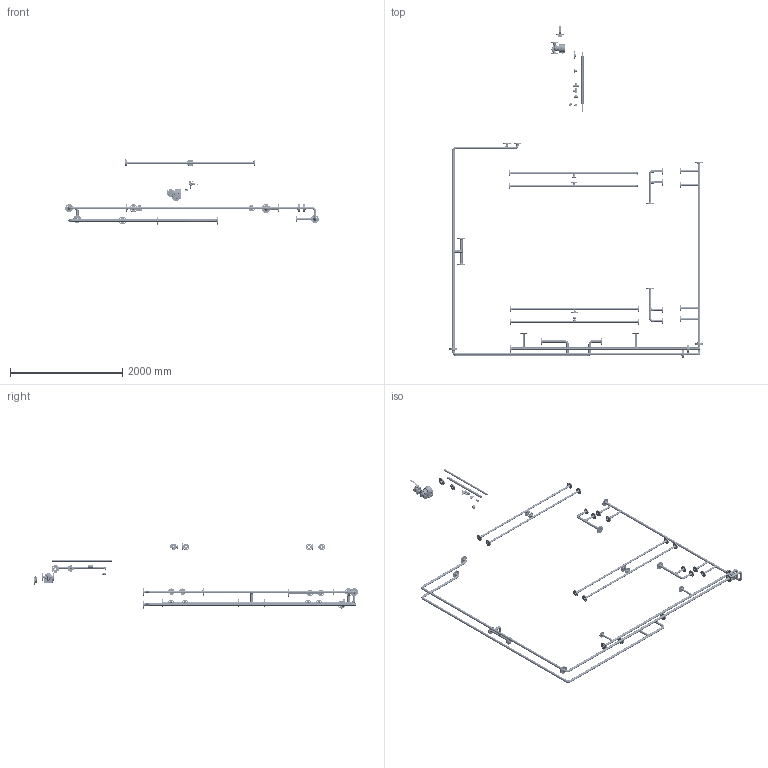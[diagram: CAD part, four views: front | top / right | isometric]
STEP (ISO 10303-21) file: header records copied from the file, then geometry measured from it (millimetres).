
FILE_DESCRIPTION (( 'STEP AP214' ), '1' );
FILE_NAME ('kirinaios_piping.STEP', '2026-09-02T16:36:31', ( '' ), ( '' ), 'SwSTEP 2.0', 'SolidWorks 2026', '' );
FILE_SCHEMA (( 'AUTOMOTIVE_DESIGN' ));
Length unit declared in the file: millimetre
Products named in the file (59): pipe-424x372-11; pipe-424x372-23; kirineos-welded-reducer-424-337-26-DN32-DN25-EN10253; pipe-337x285-3; pipe-424x372-12; magna3n_32_80_stainless steel_220_pn 6_10_single head; pipe-424x372-17; pipe-337x285; kirineos-weld-neck-flange-337-26-DN32; kirineos_ball_valve_thin_dn32; pipe-424x372-27; pipe-424x372-8; kirineos-welded-tee-424-26-DN32-EN10253; pipe-424x372; pipe-337x285-2; pipe-424x372-16; m3_200w_control_box-2; pipe-424x372-19; pipe-424x372-21; pipe-337x285-8; pipe-424x372-1; m3_dn32_ss_220_pn6-10_ced_s-0; pipe-337x285-5; pipe-424x372-9; kirineos-welded-reduced-tee-424-337-26-DN25-DIN2605-EN10253-4; pipe-424x372-25; pipe-424x372-30; pipe-424x372-3; pipe-424x372-26; pipe-424x372-6; pipe-337x285-7; pipe-337x285-4; pipe-337x285-9; pipe-424x372-24; pipe-424x372-15; pipe-424x372-22; kirinaios_piping; pipe-424x372-10; pipe-337x285-11; pipe-337x285-6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
Assembly tree (142 placements, depth 4):
  kirinaios_piping
    pipe-424x372  x2
    pipe-337x285  x9
    kirineos-weld-neck-flange-424-26-DN321  x19
    kirineos-weld-neck-flange-337-26-DN32  x23
    kirineos-welded-tee-424-26-DN32-EN10253  x7
    kirineos-welded-tee-337-26-DN25-EN10253  x5
    kirineos-welded-reducer-424-337-26-DN32-DN25-EN10253  x5
    kirineos-welded-elbow-90-424-26-DN32-EN10253  x16
    pipe-424x372-1
    pipe-424x372-2
    pipe-424x372-3
    pipe-424x372-4
    pipe-424x372-5
    pipe-424x372-6
    pipe-424x372-7
    pipe-424x372-8
    pipe-424x372-9
    pipe-424x372-10
    pipe-424x372-11
    pipe-424x372-12
    pipe-424x372-14
    pipe-424x372-15
    pipe-424x372-17
    pipe-424x372-18
    pipe-424x372-19
    pipe-424x372-16
    kirineos-welded-reduced-tee-424-337-26-DN25-DIN2605-EN10253-4  x7
    pipe-337x285-5
    pipe-337x285-4
    pipe-337x285-3
    pipe-337x285-2
    pipe-424x372-20
    pipe-424x372-24
    pipe-424x372-22
    pipe-424x372-21
    pipe-424x372-23
    pipe-337x285-6
    pipe-337x285-7
    pipe-424x372-25
    pipe-424x372-26
    pipe-424x372-27
    pipe-424x372-28
    pipe-424x372-29
    pipe-424x372-30
    pipe-424x372-31
    pipe-424x372-32
    pipe-337x285-8
    pipe-337x285-10
    pipe-337x285-9
    pipe-337x285-11
    kirineos_ball_valve_thin_dn32
    magna3n_32_80_stainless steel_220_pn 6_10_single head
      m3_dn32_ss_220_pn6-10_ced_s
        m3_dn32_ss_220_pn6-10_ced_s-0
      m_s_head
        m_s_head-1
      m3_200w_control_box
        m3_200w_control_box-2
Bounding box: 4516 x 5912.6 x 1157.95 mm (x, y, z)
Volume: 23709290.7 mm3; surface area: 11279575.8 mm2
Topology: 200 solids, 203 shells, 11524 faces, 29040 edges, 18502 vertices
Faces by surface type: plane 3594, bspline 3487, cylinder 2205, cone 1358, torus 807, sphere 73
Entity records: 226333 total; most frequent: CARTESIAN_POINT 134805, ORIENTED_EDGE 19908, DIRECTION 15881, EDGE_CURVE 9954, VERTEX_POINT 6379, AXIS2_PLACEMENT_3D 5999, EDGE_LOOP 4413, FACE_OUTER_BOUND 3993
